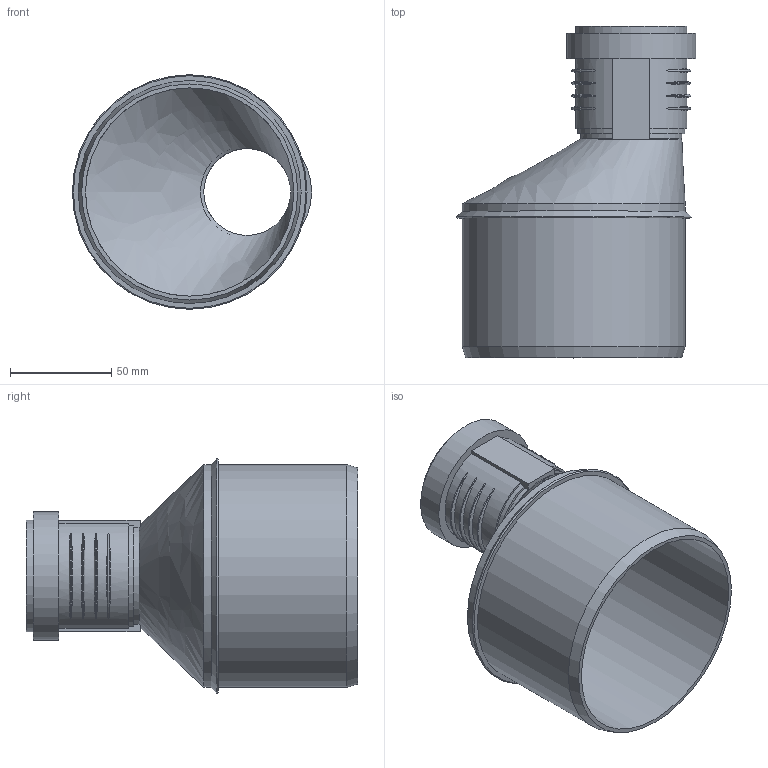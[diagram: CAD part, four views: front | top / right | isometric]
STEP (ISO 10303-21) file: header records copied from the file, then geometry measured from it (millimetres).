
FILE_DESCRIPTION(/* description */ (''),/* implementation_level */ '2;1');
FILE_NAME(/* name */ 'Z:\Geberit\Export\NewStep\390572.stp',/* time_stamp */ '2014-04-02T08:15:11+02:00',/* author */ ('ML'),/* organization */ (''),/* preprocessor_version */ 'ST-DEVELOPER v15.2',/* originating_system */ 'Autodesk Inventor 2014',/* authorisation */ '');
FILE_SCHEMA (('AUTOMOTIVE_DESIGN { 1 0 10303 214 3 1 1 }'));
Length unit declared in the file: millimetre
Products named in the file (3): 861300; 861401; 390572
Bounding box: 118.28 x 164 x 116 mm (x, y, z)
Volume: 145994.5 mm3; surface area: 101457.8 mm2
Topology: 2 solids, 2 shells, 68 faces, 162 edges, 112 vertices
Faces by surface type: torus 25, plane 20, cylinder 18, cone 3, bspline 2
Full cylindrical faces by diameter (mm): 42.95 x1, 46.15 x1, 50.15 x2, 51 x2, 55 x1, 59.7 x1, 63.7 x1, 103 x1, 110.2 x2
Entity records: 2630 total; most frequent: CARTESIAN_POINT 1021, DIRECTION 296, ORIENTED_EDGE 290, EDGE_CURVE 145, AXIS2_PLACEMENT_3D 130, VERTEX_POINT 111, EDGE_LOOP 102, STYLED_ITEM 68
